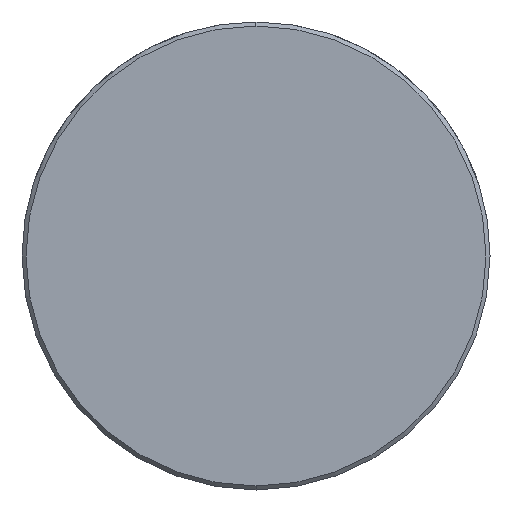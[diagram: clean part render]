
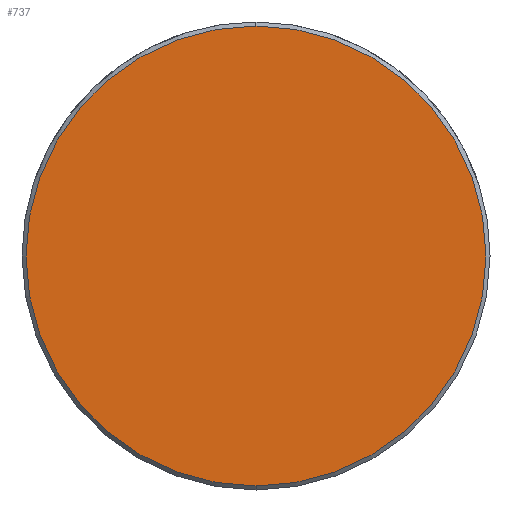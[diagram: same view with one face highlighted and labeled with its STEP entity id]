
A CAD part, left-side view. The second image highlights one B-rep face of the part: STEP entity #737.
In plain terms, the highlighted planar face has unit normal (-1, 0, 0).
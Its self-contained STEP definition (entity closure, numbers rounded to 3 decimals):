
#669=CARTESIAN_POINT('Vertex',(0.,0.,-17.2)) ;
#672=CARTESIAN_POINT('Axis2P3D Location',(0.,0.,0.)) ;
#676=CARTESIAN_POINT('Vertex',(0.,17.2,0.)) ;
#679=CARTESIAN_POINT('Axis2P3D Location',(0.,0.,0.)) ;
#683=CARTESIAN_POINT('Vertex',(0.,0.,17.2)) ;
#705=CARTESIAN_POINT('Axis2P3D Location',(0.,0.,0.)) ;
#709=CARTESIAN_POINT('Vertex',(0.,-17.2,0.)) ;
#712=CARTESIAN_POINT('Axis2P3D Location',(0.,0.,0.)) ;
#726=CARTESIAN_POINT('Axis2P3D Location',(0.,0.,0.)) ;
#673=DIRECTION('Axis2P3D Direction',(1.,0.,-0.)) ;
#680=DIRECTION('Axis2P3D Direction',(1.,0.,-0.)) ;
#706=DIRECTION('Axis2P3D Direction',(1.,0.,-0.)) ;
#713=DIRECTION('Axis2P3D Direction',(1.,0.,-0.)) ;
#727=DIRECTION('Axis2P3D Direction',(1.,0.,-0.)) ;
#728=DIRECTION('Axis2P3D XDirection',(-0.,0.,-1.)) ;
#674=AXIS2_PLACEMENT_3D('Circle Axis2P3D',#672,#673,$) ;
#681=AXIS2_PLACEMENT_3D('Circle Axis2P3D',#679,#680,$) ;
#707=AXIS2_PLACEMENT_3D('Circle Axis2P3D',#705,#706,$) ;
#714=AXIS2_PLACEMENT_3D('Circle Axis2P3D',#712,#713,$) ;
#729=AXIS2_PLACEMENT_3D('Plane Axis2P3D',#726,#727,#728) ;
#732=ORIENTED_EDGE('',*,*,#678,.F.) ;
#733=ORIENTED_EDGE('',*,*,#716,.F.) ;
#734=ORIENTED_EDGE('',*,*,#711,.F.) ;
#735=ORIENTED_EDGE('',*,*,#685,.F.) ;
#737=ADVANCED_FACE('549-32X160',(#736),#730,.F.) ;
#675=CIRCLE('generated circle',#674,17.2) ;
#682=CIRCLE('generated circle',#681,17.2) ;
#708=CIRCLE('generated circle',#707,17.2) ;
#715=CIRCLE('generated circle',#714,17.2) ;
#678=EDGE_CURVE('',#670,#677,#675,.T.) ;
#685=EDGE_CURVE('',#677,#684,#682,.T.) ;
#711=EDGE_CURVE('',#684,#710,#708,.T.) ;
#716=EDGE_CURVE('',#710,#670,#715,.T.) ;
#731=EDGE_LOOP('',(#732,#733,#734,#735)) ;
#736=FACE_OUTER_BOUND('',#731,.T.) ;
#730=PLANE('Plane',#729) ;
#670=VERTEX_POINT('',#669) ;
#677=VERTEX_POINT('',#676) ;
#684=VERTEX_POINT('',#683) ;
#710=VERTEX_POINT('',#709) ;
